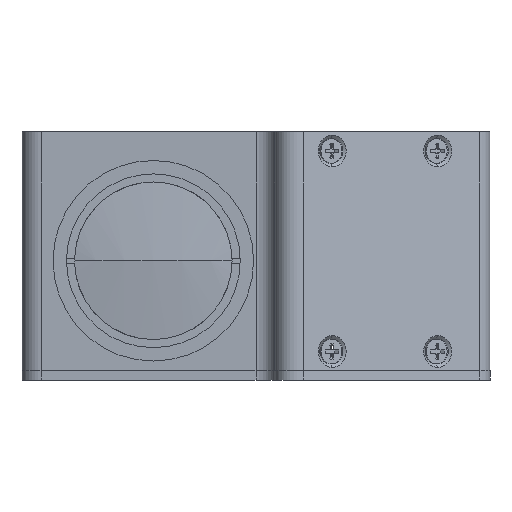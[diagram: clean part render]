
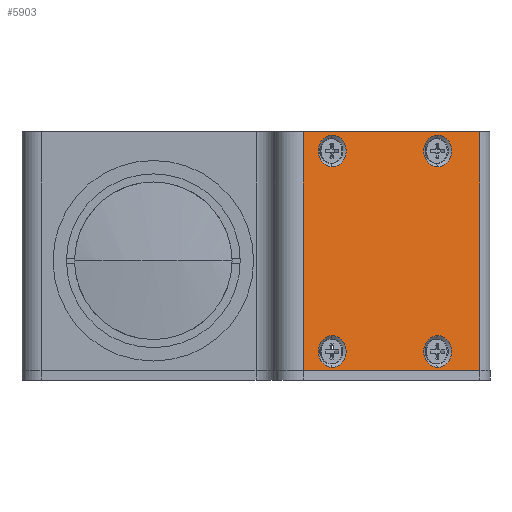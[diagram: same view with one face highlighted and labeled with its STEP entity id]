
A CAD part, left-side view. The second image highlights one B-rep face of the part: STEP entity #5903.
In plain terms, the highlighted planar face has unit normal (-0.883, -0.469, 0).
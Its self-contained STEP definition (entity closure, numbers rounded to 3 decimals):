
#904 = FACE_BOUND ( 'NONE', #11998, .T. ) ;
#909 = CIRCLE ( 'NONE', #2441, 3.3 ) ;
#915 = ORIENTED_EDGE ( 'NONE', *, *, #12608, .F. ) ;
#1155 = CIRCLE ( 'NONE', #10374, 3.3 ) ;
#1330 = CIRCLE ( 'NONE', #9491, 3.3 ) ;
#1473 = VECTOR ( 'NONE', #2620, 1000. ) ;
#1852 = DIRECTION ( 'NONE',  ( -0.883, -0.469, 0. ) ) ;
#1862 = CARTESIAN_POINT ( 'NONE',  ( 59.646, -59.548, -19. ) ) ;
#2086 = CARTESIAN_POINT ( 'NONE',  ( 59.646, -59.548, 26.3 ) ) ;
#2100 = ORIENTED_EDGE ( 'NONE', *, *, #10861, .F. ) ;
#2114 = ORIENTED_EDGE ( 'NONE', *, *, #13372, .F. ) ;
#2126 = DIRECTION ( 'NONE',  ( 0., 0., -1. ) ) ;
#2251 = VECTOR ( 'NONE', #2126, 1000. ) ;
#2269 = CARTESIAN_POINT ( 'NONE',  ( 59.646, -59.548, -15.7 ) ) ;
#2351 = ORIENTED_EDGE ( 'NONE', *, *, #11059, .F. ) ;
#2441 = AXIS2_PLACEMENT_3D ( 'NONE', #12572, #5759, #13656 ) ;
#2620 = DIRECTION ( 'NONE',  ( 0., 0., 1. ) ) ;
#2643 = DIRECTION ( 'NONE',  ( -0.883, -0.469, 0. ) ) ;
#2754 = CARTESIAN_POINT ( 'NONE',  ( 47.909, -37.475, 23. ) ) ;
#2762 = CARTESIAN_POINT ( 'NONE',  ( 54.554, -49.971, 2. ) ) ;
#2764 = CARTESIAN_POINT ( 'NONE',  ( 64.341, -68.378, 27. ) ) ;
#2773 = DIRECTION ( 'NONE',  ( 0.469, -0.883, 0. ) ) ;
#2910 = CARTESIAN_POINT ( 'NONE',  ( 59.646, -59.548, 23. ) ) ;
#3048 = DIRECTION ( 'NONE',  ( 0., 0., 1. ) ) ;
#3188 = VERTEX_POINT ( 'NONE', #14792 ) ;
#3415 = CARTESIAN_POINT ( 'NONE',  ( 59.646, -59.548, -19. ) ) ;
#3513 = AXIS2_PLACEMENT_3D ( 'NONE', #1862, #9970, #3048 ) ;
#3735 = VERTEX_POINT ( 'NONE', #2269 ) ;
#3791 = VERTEX_POINT ( 'NONE', #7004 ) ;
#3832 = CIRCLE ( 'NONE', #4675, 3.3 ) ;
#3890 = AXIS2_PLACEMENT_3D ( 'NONE', #13189, #6404, #14269 ) ;
#3915 = DIRECTION ( 'NONE',  ( 0., 0., 1. ) ) ;
#4013 = FACE_BOUND ( 'NONE', #10680, .T. ) ;
#4074 = DIRECTION ( 'NONE',  ( 0., 0., 1. ) ) ;
#4180 = CARTESIAN_POINT ( 'NONE',  ( 47.909, -37.475, 19.7 ) ) ;
#4579 = ORIENTED_EDGE ( 'NONE', *, *, #11180, .T. ) ;
#4583 = DIRECTION ( 'NONE',  ( 0., 0., 1. ) ) ;
#4639 = CARTESIAN_POINT ( 'NONE',  ( 47.909, -37.475, 26.3 ) ) ;
#4675 = AXIS2_PLACEMENT_3D ( 'NONE', #2754, #10822, #3915 ) ;
#4896 = EDGE_LOOP ( 'NONE', ( #12948, #7460, #915, #4579 ) ) ;
#4925 = VERTEX_POINT ( 'NONE', #10163 ) ;
#5106 = DIRECTION ( 'NONE',  ( 0., 0., 1. ) ) ;
#5196 = ORIENTED_EDGE ( 'NONE', *, *, #13142, .F. ) ;
#5361 = LINE ( 'NONE', #6751, #2251 ) ;
#5477 = AXIS2_PLACEMENT_3D ( 'NONE', #2762, #11959, #5106 ) ;
#5759 = DIRECTION ( 'NONE',  ( -0.883, -0.469, 0. ) ) ;
#5847 = CIRCLE ( 'NONE', #3890, 3.3 ) ;
#5864 = LINE ( 'NONE', #13337, #11224 ) ;
#5903 = ADVANCED_FACE ( 'NONE', ( #9794, #904, #4013, #12781, #6742 ), #9636, .T. ) ;
#6404 = DIRECTION ( 'NONE',  ( -0.883, -0.469, 0. ) ) ;
#6742 = FACE_OUTER_BOUND ( 'NONE', #4896, .T. ) ;
#6751 = CARTESIAN_POINT ( 'NONE',  ( 44.651, -31.348, 2. ) ) ;
#6950 = VECTOR ( 'NONE', #2773, 1000. ) ;
#7004 = CARTESIAN_POINT ( 'NONE',  ( 59.646, -59.548, -22.3 ) ) ;
#7071 = VERTEX_POINT ( 'NONE', #4639 ) ;
#7299 = CARTESIAN_POINT ( 'NONE',  ( 67.582, -74.473, 27. ) ) ;
#7460 = ORIENTED_EDGE ( 'NONE', *, *, #12552, .T. ) ;
#7672 = VERTEX_POINT ( 'NONE', #2086 ) ;
#7824 = VERTEX_POINT ( 'NONE', #13755 ) ;
#7826 = CIRCLE ( 'NONE', #3513, 3.3 ) ;
#8491 = ORIENTED_EDGE ( 'NONE', *, *, #10409, .F. ) ;
#8639 = VERTEX_POINT ( 'NONE', #11966 ) ;
#8799 = CARTESIAN_POINT ( 'NONE',  ( 47.909, -37.475, 23. ) ) ;
#9145 = ORIENTED_EDGE ( 'NONE', *, *, #13190, .F. ) ;
#9491 = AXIS2_PLACEMENT_3D ( 'NONE', #8799, #1852, #9960 ) ;
#9516 = CIRCLE ( 'NONE', #11409, 3.3 ) ;
#9547 = ORIENTED_EDGE ( 'NONE', *, *, #10673, .F. ) ;
#9551 = CARTESIAN_POINT ( 'NONE',  ( 64.341, -68.378, 2. ) ) ;
#9572 = CARTESIAN_POINT ( 'NONE',  ( 47.909, -37.475, -19. ) ) ;
#9636 = PLANE ( 'NONE',  #5477 ) ;
#9794 = FACE_BOUND ( 'NONE', #13081, .T. ) ;
#9877 = EDGE_LOOP ( 'NONE', ( #11299, #2351 ) ) ;
#9960 = DIRECTION ( 'NONE',  ( 0., 0., 1. ) ) ;
#9970 = DIRECTION ( 'NONE',  ( -0.883, -0.469, 0. ) ) ;
#9985 = LINE ( 'NONE', #7299, #6950 ) ;
#10055 = CIRCLE ( 'NONE', #12441, 3.3 ) ;
#10163 = CARTESIAN_POINT ( 'NONE',  ( 47.909, -37.475, -22.3 ) ) ;
#10374 = AXIS2_PLACEMENT_3D ( 'NONE', #9572, #2643, #10717 ) ;
#10409 = EDGE_CURVE ( 'NONE', #8639, #7672, #10055, .T. ) ;
#10673 = EDGE_CURVE ( 'NONE', #3791, #3735, #9516, .T. ) ;
#10680 = EDGE_LOOP ( 'NONE', ( #5196, #2100 ) ) ;
#10703 = LINE ( 'NONE', #9551, #1473 ) ;
#10717 = DIRECTION ( 'NONE',  ( 0., 0., 1. ) ) ;
#10822 = DIRECTION ( 'NONE',  ( -0.883, -0.469, 0. ) ) ;
#10861 = EDGE_CURVE ( 'NONE', #4925, #3188, #1155, .T. ) ;
#10984 = DIRECTION ( 'NONE',  ( -0.883, -0.469, 0. ) ) ;
#11059 = EDGE_CURVE ( 'NONE', #13804, #7071, #1330, .T. ) ;
#11180 = EDGE_CURVE ( 'NONE', #13716, #13623, #5361, .T. ) ;
#11224 = VECTOR ( 'NONE', #14423, 1000. ) ;
#11299 = ORIENTED_EDGE ( 'NONE', *, *, #13061, .F. ) ;
#11409 = AXIS2_PLACEMENT_3D ( 'NONE', #3415, #11465, #4583 ) ;
#11465 = DIRECTION ( 'NONE',  ( -0.883, -0.469, 0. ) ) ;
#11684 = VERTEX_POINT ( 'NONE', #2764 ) ;
#11959 = DIRECTION ( 'NONE',  ( -0.883, -0.469, 0. ) ) ;
#11966 = CARTESIAN_POINT ( 'NONE',  ( 59.646, -59.548, 19.7 ) ) ;
#11998 = EDGE_LOOP ( 'NONE', ( #9145, #9547 ) ) ;
#12441 = AXIS2_PLACEMENT_3D ( 'NONE', #2910, #10984, #4074 ) ;
#12552 = EDGE_CURVE ( 'NONE', #7824, #11684, #10703, .T. ) ;
#12572 = CARTESIAN_POINT ( 'NONE',  ( 59.646, -59.548, 23. ) ) ;
#12608 = EDGE_CURVE ( 'NONE', #13716, #11684, #9985, .T. ) ;
#12743 = EDGE_CURVE ( 'NONE', #7824, #13623, #5864, .T. ) ;
#12781 = FACE_BOUND ( 'NONE', #9877, .T. ) ;
#12948 = ORIENTED_EDGE ( 'NONE', *, *, #12743, .F. ) ;
#13009 = CARTESIAN_POINT ( 'NONE',  ( 44.651, -31.348, -23. ) ) ;
#13061 = EDGE_CURVE ( 'NONE', #7071, #13804, #3832, .T. ) ;
#13081 = EDGE_LOOP ( 'NONE', ( #2114, #8491 ) ) ;
#13142 = EDGE_CURVE ( 'NONE', #3188, #4925, #5847, .T. ) ;
#13147 = CARTESIAN_POINT ( 'NONE',  ( 44.651, -31.348, 27. ) ) ;
#13189 = CARTESIAN_POINT ( 'NONE',  ( 47.909, -37.475, -19. ) ) ;
#13190 = EDGE_CURVE ( 'NONE', #3735, #3791, #7826, .T. ) ;
#13337 = CARTESIAN_POINT ( 'NONE',  ( 67.582, -74.473, -23. ) ) ;
#13372 = EDGE_CURVE ( 'NONE', #7672, #8639, #909, .T. ) ;
#13623 = VERTEX_POINT ( 'NONE', #13009 ) ;
#13656 = DIRECTION ( 'NONE',  ( 0., 0., 1. ) ) ;
#13716 = VERTEX_POINT ( 'NONE', #13147 ) ;
#13755 = CARTESIAN_POINT ( 'NONE',  ( 64.341, -68.378, -23. ) ) ;
#13804 = VERTEX_POINT ( 'NONE', #4180 ) ;
#14269 = DIRECTION ( 'NONE',  ( 0., 0., 1. ) ) ;
#14423 = DIRECTION ( 'NONE',  ( -0.469, 0.883, 0. ) ) ;
#14792 = CARTESIAN_POINT ( 'NONE',  ( 47.909, -37.475, -15.7 ) ) ;
